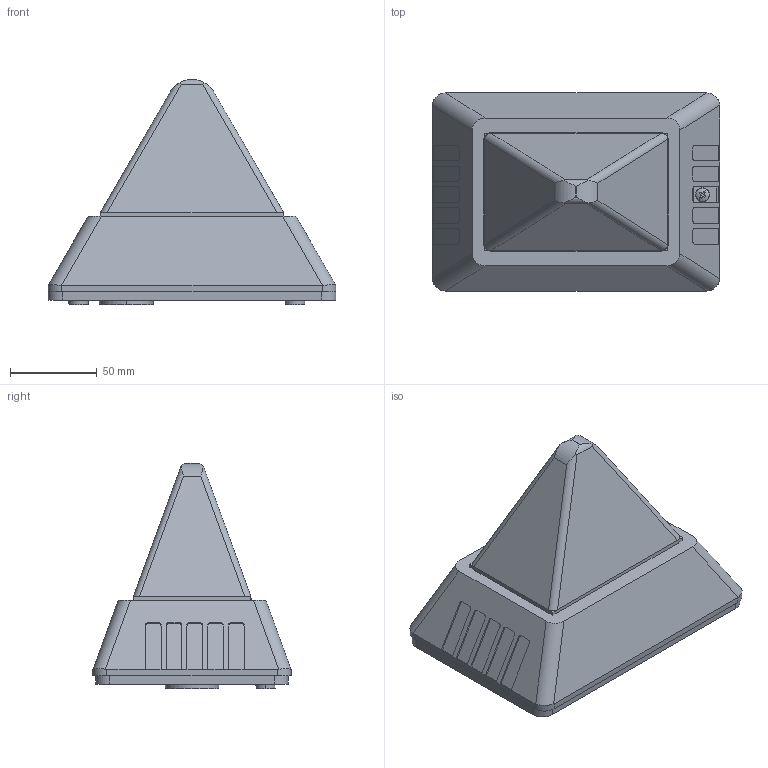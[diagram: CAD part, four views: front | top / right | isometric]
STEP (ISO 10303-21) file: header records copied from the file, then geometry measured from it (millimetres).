
FILE_DESCRIPTION (( 'STEP AP214' ), '1' );
FILE_NAME ('PB_PD 2000.STEP', '2010-01-12T10:49:19', ( ' ' ), ( ' ' ), 'SwSTEP 2.0', 'SolidWorks 2009', '' );
FILE_SCHEMA (( 'AUTOMOTIVE_DESIGN' ));
Length unit declared in the file: millimetre
Products named in the file (1): PB_PD 2000
Bounding box: 166.2 x 114.39 x 130 mm (x, y, z)
Surface area: 90668 mm2 (no closed solid volume)
Topology: 0 solids, 10 shells, 210 faces, 788 edges, 577 vertices
Faces by surface type: plane 120, cylinder 74, cone 8, bspline 4, sphere 2, torus 2
Entity records: 11346 total; most frequent: CARTESIAN_POINT 2570, DIRECTION 1272, ORIENTED_EDGE 1259, EDGE_CURVE 784, VERTEX_POINT 577, VECTOR 508, LINE 508, AXIS2_PLACEMENT_3D 382
